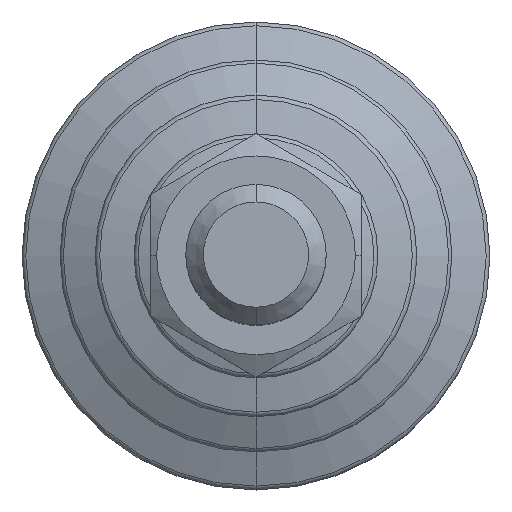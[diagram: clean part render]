
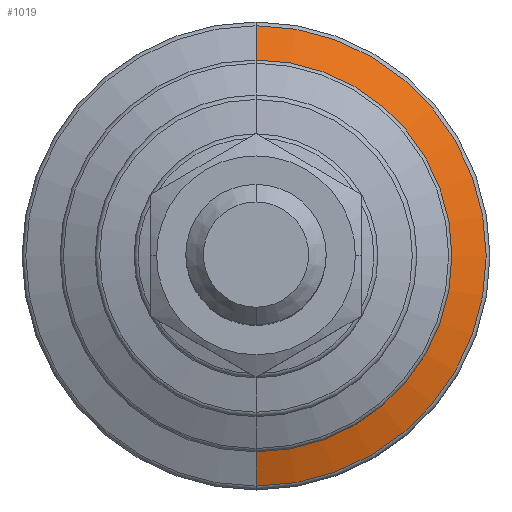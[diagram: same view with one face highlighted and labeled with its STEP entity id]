
A CAD part, top view. The second image highlights one B-rep face of the part: STEP entity #1019.
In plain terms, the highlighted conical face has half-angle 68.962 degrees and reference radius 33.5 mm.
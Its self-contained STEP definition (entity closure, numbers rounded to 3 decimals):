
#31 = CARTESIAN_POINT ( 'NONE',  ( 0., -33.5, 15.032 ) ) ;
#78 = LINE ( 'NONE', #503, #1773 ) ;
#162 = CARTESIAN_POINT ( 'NONE',  ( 0., 33.5, 15.032 ) ) ;
#285 = VERTEX_POINT ( 'NONE', #162 ) ;
#365 = VERTEX_POINT ( 'NONE', #31 ) ;
#375 = EDGE_LOOP ( 'NONE', ( #1128, #1756, #1851, #1111 ) ) ;
#503 = CARTESIAN_POINT ( 'NONE',  ( 0., -33.5, 15.032 ) ) ;
#513 = DIRECTION ( 'NONE',  ( 0., -0.933, -0.359 ) ) ;
#527 = CARTESIAN_POINT ( 'NONE',  ( 0., -39.359, 12.778 ) ) ;
#542 = CARTESIAN_POINT ( 'NONE',  ( 0., 39.359, 12.778 ) ) ;
#547 = EDGE_CURVE ( 'NONE', #285, #365, #2144, .T. ) ;
#578 = DIRECTION ( 'NONE',  ( 0., 0., -1. ) ) ;
#600 = VECTOR ( 'NONE', #1359, 1000. ) ;
#695 = DIRECTION ( 'NONE',  ( 0., 1., 0. ) ) ;
#711 = VERTEX_POINT ( 'NONE', #542 ) ;
#735 = AXIS2_PLACEMENT_3D ( 'NONE', #1138, #578, #2116 ) ;
#916 = CARTESIAN_POINT ( 'NONE',  ( 0., 33.5, 15.032 ) ) ;
#1015 = DIRECTION ( 'NONE',  ( 0., 0., -1. ) ) ;
#1019 = ADVANCED_FACE ( 'NONE', ( #2280 ), #1940, .T. ) ;
#1101 = AXIS2_PLACEMENT_3D ( 'NONE', #1877, #2095, #695 ) ;
#1111 = ORIENTED_EDGE ( 'NONE', *, *, #1204, .F. ) ;
#1128 = ORIENTED_EDGE ( 'NONE', *, *, #547, .T. ) ;
#1130 = VERTEX_POINT ( 'NONE', #527 ) ;
#1138 = CARTESIAN_POINT ( 'NONE',  ( 0., 0., 15.032 ) ) ;
#1204 = EDGE_CURVE ( 'NONE', #285, #711, #2288, .T. ) ;
#1219 = CIRCLE ( 'NONE', #1354, 39.359 ) ;
#1354 = AXIS2_PLACEMENT_3D ( 'NONE', #2314, #1015, #2367 ) ;
#1359 = DIRECTION ( 'NONE',  ( 0., 0.933, -0.359 ) ) ;
#1756 = ORIENTED_EDGE ( 'NONE', *, *, #2331, .T. ) ;
#1758 = EDGE_CURVE ( 'NONE', #711, #1130, #1219, .T. ) ;
#1773 = VECTOR ( 'NONE', #513, 1000. ) ;
#1851 = ORIENTED_EDGE ( 'NONE', *, *, #1758, .F. ) ;
#1877 = CARTESIAN_POINT ( 'NONE',  ( 0., 0., 15.032 ) ) ;
#1940 = CONICAL_SURFACE ( 'NONE', #735, 33.5, 1.204 ) ;
#2095 = DIRECTION ( 'NONE',  ( 0., 0., -1. ) ) ;
#2116 = DIRECTION ( 'NONE',  ( 0., 1., 0. ) ) ;
#2144 = CIRCLE ( 'NONE', #1101, 33.5 ) ;
#2280 = FACE_OUTER_BOUND ( 'NONE', #375, .T. ) ;
#2288 = LINE ( 'NONE', #916, #600 ) ;
#2314 = CARTESIAN_POINT ( 'NONE',  ( 0., 0., 12.778 ) ) ;
#2331 = EDGE_CURVE ( 'NONE', #365, #1130, #78, .T. ) ;
#2367 = DIRECTION ( 'NONE',  ( 0., 1., 0. ) ) ;
